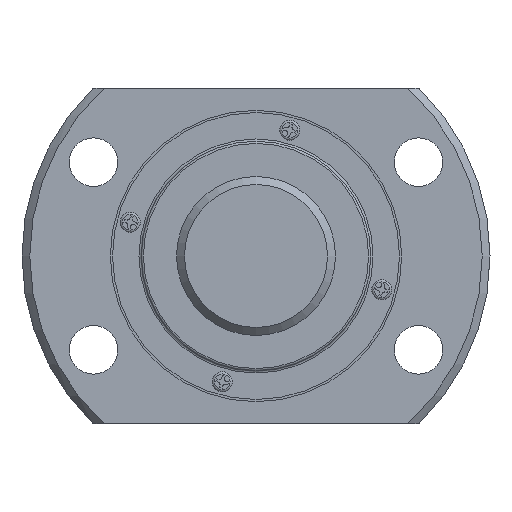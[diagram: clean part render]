
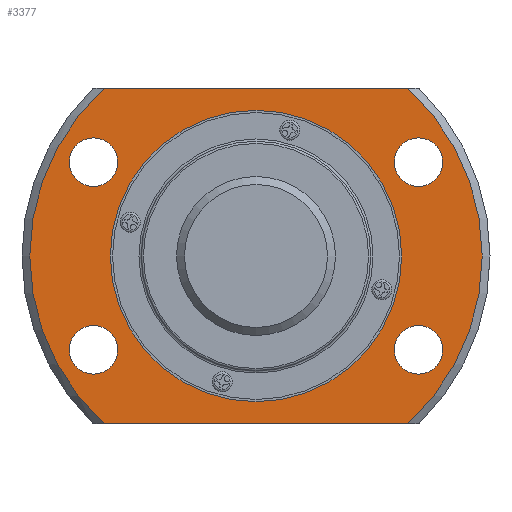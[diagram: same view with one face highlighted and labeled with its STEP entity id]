
A CAD part, left-side view. The second image highlights one B-rep face of the part: STEP entity #3377.
In plain terms, the highlighted planar face has unit normal (-1, 0, 0).
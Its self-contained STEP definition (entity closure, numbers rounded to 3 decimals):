
#37=LINE('',#5080,#365);
#38=LINE('',#5081,#366);
#365=VECTOR('',#4023,1000.);
#366=VECTOR('',#4024,1000.);
#721=PLANE('',#3628);
#887=ORIENTED_EDGE('',*,*,#1823,.T.);
#888=ORIENTED_EDGE('',*,*,#1824,.T.);
#889=ORIENTED_EDGE('',*,*,#1825,.T.);
#890=ORIENTED_EDGE('',*,*,#1826,.T.);
#891=ORIENTED_EDGE('',*,*,#1827,.T.);
#892=ORIENTED_EDGE('',*,*,#1818,.F.);
#893=ORIENTED_EDGE('',*,*,#1828,.T.);
#894=ORIENTED_EDGE('',*,*,#1821,.F.);
#895=ORIENTED_EDGE('',*,*,#1829,.T.);
#1818=EDGE_CURVE('',#2286,#2287,#2617,.T.);
#1821=EDGE_CURVE('',#2288,#2289,#2618,.T.);
#1823=EDGE_CURVE('',#2290,#2290,#2619,.T.);
#1824=EDGE_CURVE('',#2291,#2291,#2620,.T.);
#1825=EDGE_CURVE('',#2292,#2292,#2621,.T.);
#1826=EDGE_CURVE('',#2293,#2293,#2622,.T.);
#1827=EDGE_CURVE('',#2294,#2294,#2623,.T.);
#1828=EDGE_CURVE('',#2286,#2289,#37,.T.);
#1829=EDGE_CURVE('',#2288,#2287,#38,.T.);
#2286=VERTEX_POINT('',#5050);
#2287=VERTEX_POINT('',#5052);
#2288=VERTEX_POINT('',#5062);
#2289=VERTEX_POINT('',#5064);
#2290=VERTEX_POINT('',#5071);
#2291=VERTEX_POINT('',#5073);
#2292=VERTEX_POINT('',#5075);
#2293=VERTEX_POINT('',#5077);
#2294=VERTEX_POINT('',#5079);
#2617=CIRCLE('',#3625,51.233);
#2618=CIRCLE('',#3627,51.233);
#2619=CIRCLE('',#3629,33.);
#2620=CIRCLE('',#3630,5.5);
#2621=CIRCLE('',#3631,5.5);
#2622=CIRCLE('',#3632,5.5);
#2623=CIRCLE('',#3633,5.5);
#2759=EDGE_LOOP('',(#887));
#2760=EDGE_LOOP('',(#888));
#2761=EDGE_LOOP('',(#889));
#2762=EDGE_LOOP('',(#890));
#2763=EDGE_LOOP('',(#891));
#2764=EDGE_LOOP('',(#892,#893,#894,#895));
#3043=FACE_BOUND('',#2759,.T.);
#3044=FACE_BOUND('',#2760,.T.);
#3045=FACE_BOUND('',#2761,.T.);
#3046=FACE_BOUND('',#2762,.T.);
#3047=FACE_BOUND('',#2763,.T.);
#3048=FACE_BOUND('',#2764,.T.);
#3377=ADVANCED_FACE('',(#3043,#3044,#3045,#3046,#3047,#3048),#721,.T.);
#3625=AXIS2_PLACEMENT_3D('',#5051,#4005,#4006);
#3627=AXIS2_PLACEMENT_3D('',#5063,#4009,#4010);
#3628=AXIS2_PLACEMENT_3D('',#5069,#4011,#4012);
#3629=AXIS2_PLACEMENT_3D('',#5070,#4013,#4014);
#3630=AXIS2_PLACEMENT_3D('',#5072,#4015,#4016);
#3631=AXIS2_PLACEMENT_3D('',#5074,#4017,#4018);
#3632=AXIS2_PLACEMENT_3D('',#5076,#4019,#4020);
#3633=AXIS2_PLACEMENT_3D('',#5078,#4021,#4022);
#4005=DIRECTION('',(1.,0.,0.));
#4006=DIRECTION('',(0.,0.,-1.));
#4009=DIRECTION('',(1.,0.,0.));
#4010=DIRECTION('',(0.,0.,-1.));
#4011=DIRECTION('',(-1.,0.,0.));
#4012=DIRECTION('',(0.,0.,1.));
#4013=DIRECTION('',(1.,0.,0.));
#4014=DIRECTION('',(0.,0.,-1.));
#4015=DIRECTION('',(1.,0.,0.));
#4016=DIRECTION('',(0.,0.,-1.));
#4017=DIRECTION('',(1.,0.,0.));
#4018=DIRECTION('',(0.,0.,-1.));
#4019=DIRECTION('',(1.,0.,0.));
#4020=DIRECTION('',(0.,0.,-1.));
#4021=DIRECTION('',(1.,0.,0.));
#4022=DIRECTION('',(0.,0.,-1.));
#4023=DIRECTION('',(0.,1.,0.));
#4024=DIRECTION('',(0.,-1.,0.));
#5050=CARTESIAN_POINT('',(10.,-34.364,38.));
#5051=CARTESIAN_POINT('',(10.,0.,0.));
#5052=CARTESIAN_POINT('',(10.,-34.364,-38.));
#5062=CARTESIAN_POINT('',(10.,34.364,-38.));
#5063=CARTESIAN_POINT('',(10.,0.,0.));
#5064=CARTESIAN_POINT('',(10.,34.364,38.));
#5069=CARTESIAN_POINT('',(10.,51.233,0.));
#5070=CARTESIAN_POINT('',(10.,0.,0.));
#5071=CARTESIAN_POINT('',(10.,0.,-33.));
#5072=CARTESIAN_POINT('',(10.,-36.806,21.25));
#5073=CARTESIAN_POINT('',(10.,-36.806,15.75));
#5074=CARTESIAN_POINT('',(10.,36.806,-21.25));
#5075=CARTESIAN_POINT('',(10.,36.806,-26.75));
#5076=CARTESIAN_POINT('',(10.,-36.806,-21.25));
#5077=CARTESIAN_POINT('',(10.,-36.806,-26.75));
#5078=CARTESIAN_POINT('',(10.,36.806,21.25));
#5079=CARTESIAN_POINT('',(10.,36.806,15.75));
#5080=CARTESIAN_POINT('',(10.,51.233,38.));
#5081=CARTESIAN_POINT('',(10.,51.233,-38.));
